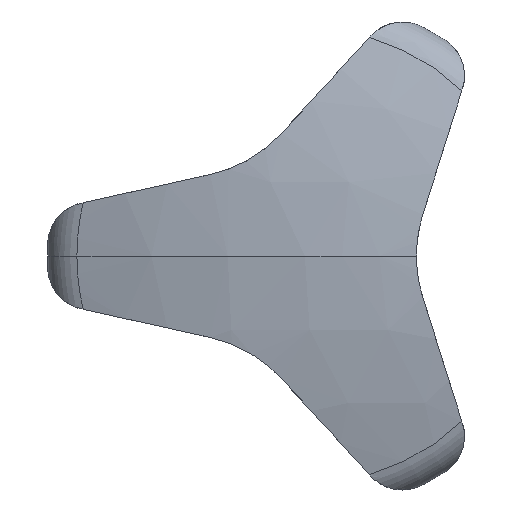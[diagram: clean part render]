
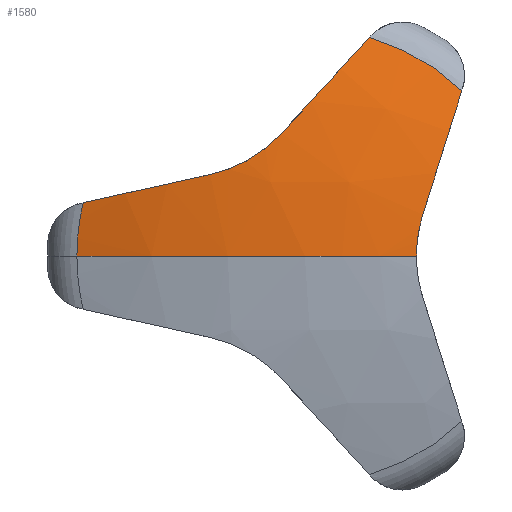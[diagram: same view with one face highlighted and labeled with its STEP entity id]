
A CAD part, left-side view. The second image highlights one B-rep face of the part: STEP entity #1580.
In plain terms, the highlighted spherical face has radius 85 mm.
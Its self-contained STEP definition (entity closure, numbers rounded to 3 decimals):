
#13 = DIRECTION ( 'NONE',  ( 0., 1., 0. ) ) ;
#19 = ORIENTED_EDGE ( 'NONE', *, *, #1154, .F. ) ;
#21 = VERTEX_POINT ( 'NONE', #441 ) ;
#26 = CARTESIAN_POINT ( 'NONE',  ( 50., -11.118, -3.506 ) ) ;
#43 = SPHERICAL_SURFACE ( 'NONE', #534, 85. ) ;
#66 = CARTESIAN_POINT ( 'NONE',  ( -33.973, 7.951, 10.511 ) ) ;
#69 = VERTEX_POINT ( 'NONE', #989 ) ;
#82 = CARTESIAN_POINT ( 'NONE',  ( -33.978, 5.113, 12.132 ) ) ;
#83 = AXIS2_PLACEMENT_3D ( 'NONE', #1164, #646, #13 ) ;
#88 = CARTESIAN_POINT ( 'NONE',  ( -33.744, 11.037, 9.494 ) ) ;
#117 = CARTESIAN_POINT ( 'NONE',  ( -33.829, -13.495, 4.031 ) ) ;
#141 = VERTEX_POINT ( 'NONE', #1240 ) ;
#161 = EDGE_CURVE ( 'NONE', #69, #497, #620, .T. ) ;
#179 = DIRECTION ( 'NONE',  ( 0., 0., 1. ) ) ;
#183 = CIRCLE ( 'NONE', #1031, 84.197 ) ;
#189 = AXIS2_PLACEMENT_3D ( 'NONE', #514, #386, #1507 ) ;
#194 = CARTESIAN_POINT ( 'NONE',  ( -33.893, 3.85, 13.147 ) ) ;
#206 = ORIENTED_EDGE ( 'NONE', *, *, #1366, .T. ) ;
#210 = AXIS2_PLACEMENT_3D ( 'NONE', #26, #299, #425 ) ;
#220 = CARTESIAN_POINT ( 'NONE',  ( -33.829, 10.238, 9.671 ) ) ;
#233 = DIRECTION ( 'NONE',  ( 0., -0.976, 0.216 ) ) ;
#237 = CIRCLE ( 'NONE', #189, 26.563 ) ;
#258 = CARTESIAN_POINT ( 'NONE',  ( -33.957, -13.125, 2.037 ) ) ;
#279 = CIRCLE ( 'NONE', #83, 26.563 ) ;
#287 = DIRECTION ( 'NONE',  ( 0., 0., 1. ) ) ;
#299 = DIRECTION ( 'NONE',  ( 0., 0.954, 0.301 ) ) ;
#305 = CARTESIAN_POINT ( 'NONE',  ( 50., 0., 0. ) ) ;
#306 = EDGE_CURVE ( 'NONE', #1170, #1013, #279, .T. ) ;
#333 = CARTESIAN_POINT ( 'NONE',  ( -33.829, 3.257, 13.702 ) ) ;
#338 = ORIENTED_EDGE ( 'NONE', *, *, #1549, .T. ) ;
#339 = CARTESIAN_POINT ( 'NONE',  ( -34., 5.784, 11.672 ) ) ;
#373 = DIRECTION ( 'NONE',  ( 0., -0.676, 0.737 ) ) ;
#386 = DIRECTION ( 'NONE',  ( 1., 0., 0. ) ) ;
#416 = EDGE_CURVE ( 'NONE', #497, #1592, #542, .T. ) ;
#425 = DIRECTION ( 'NONE',  ( 0., 0.301, -0.954 ) ) ;
#441 = CARTESIAN_POINT ( 'NONE',  ( -30.743, 26.562, 0. ) ) ;
#451 = CARTESIAN_POINT ( 'NONE',  ( -33.893, 9.46, 9.908 ) ) ;
#497 = VERTEX_POINT ( 'NONE', #88 ) ;
#510 = CARTESIAN_POINT ( 'NONE',  ( -34., -13., 0.41 ) ) ;
#514 = CARTESIAN_POINT ( 'NONE',  ( -30.743, 0., 0. ) ) ;
#534 = AXIS2_PLACEMENT_3D ( 'NONE', #305, #179, #1443 ) ;
#542 = CIRCLE ( 'NONE', #1458, 84.197 ) ;
#616 = ORIENTED_EDGE ( 'NONE', *, *, #1145, .T. ) ;
#620 = B_SPLINE_CURVE_WITH_KNOTS ( 'NONE', 3,
 ( #1601, #333, #194, #82, #339, #698, #1349, #66, #1081, #451, #220, #722 ),
 .UNSPECIFIED., .F., .F.,
 ( 4, 2, 2, 2, 2, 4 ),
 ( 0., 0.002, 0.005, 0.006, 0.007, 0.01 ),
 .UNSPECIFIED. ) ;
#623 = CARTESIAN_POINT ( 'NONE',  ( -33.744, -13.741, 4.811 ) ) ;
#641 = CARTESIAN_POINT ( 'NONE',  ( -33.893, -13.311, 3.24 ) ) ;
#646 = DIRECTION ( 'NONE',  ( 1., 0., 0. ) ) ;
#698 = CARTESIAN_POINT ( 'NONE',  ( -34., 6.85, 11.056 ) ) ;
#722 = CARTESIAN_POINT ( 'NONE',  ( -33.744, 11.037, 9.494 ) ) ;
#724 = ORIENTED_EDGE ( 'NONE', *, *, #1313, .F. ) ;
#732 = ORIENTED_EDGE ( 'NONE', *, *, #306, .F. ) ;
#733 = DIRECTION ( 'NONE',  ( -1., 0., 0. ) ) ;
#748 = CARTESIAN_POINT ( 'NONE',  ( 50., 8.595, 7.876 ) ) ;
#816 = CARTESIAN_POINT ( 'NONE',  ( -30.743, 25.825, 6.216 ) ) ;
#885 = CARTESIAN_POINT ( 'NONE',  ( -33.995, -13.016, 0.821 ) ) ;
#897 = VERTEX_POINT ( 'NONE', #1149 ) ;
#906 = CARTESIAN_POINT ( 'NONE',  ( -33.973, -13.078, 1.634 ) ) ;
#914 = DIRECTION ( 'NONE',  ( 0., -1., 0. ) ) ;
#929 = CARTESIAN_POINT ( 'NONE',  ( -30.743, -18.295, 19.257 ) ) ;
#946 = CIRCLE ( 'NONE', #1115, 85. ) ;
#948 = CIRCLE ( 'NONE', #1142, 85. ) ;
#969 = CARTESIAN_POINT ( 'NONE',  ( 50., 0., 0. ) ) ;
#989 = CARTESIAN_POINT ( 'NONE',  ( -33.744, 2.704, 14.305 ) ) ;
#1013 = VERTEX_POINT ( 'NONE', #929 ) ;
#1031 = AXIS2_PLACEMENT_3D ( 'NONE', #748, #1259, #373 ) ;
#1081 = CARTESIAN_POINT ( 'NONE',  ( -33.957, 8.324, 10.349 ) ) ;
#1104 = ORIENTED_EDGE ( 'NONE', *, *, #161, .T. ) ;
#1115 = AXIS2_PLACEMENT_3D ( 'NONE', #969, #1346, #733 ) ;
#1142 = AXIS2_PLACEMENT_3D ( 'NONE', #1168, #287, #914 ) ;
#1145 = EDGE_CURVE ( 'NONE', #1170, #69, #183, .T. ) ;
#1149 = CARTESIAN_POINT ( 'NONE',  ( -34., -13., 0. ) ) ;
#1153 = EDGE_LOOP ( 'NONE', ( #724, #1163, #206, #338, #732, #616, #1104, #1279, #19 ) ) ;
#1154 = EDGE_CURVE ( 'NONE', #21, #1592, #237, .T. ) ;
#1160 = CARTESIAN_POINT ( 'NONE',  ( -34., -13., 0. ) ) ;
#1163 = ORIENTED_EDGE ( 'NONE', *, *, #1595, .T. ) ;
#1164 = CARTESIAN_POINT ( 'NONE',  ( -30.743, 0., 0. ) ) ;
#1168 = CARTESIAN_POINT ( 'NONE',  ( 50., 0., 0. ) ) ;
#1170 = VERTEX_POINT ( 'NONE', #1367 ) ;
#1240 = CARTESIAN_POINT ( 'NONE',  ( -33.744, -13.741, 4.811 ) ) ;
#1259 = DIRECTION ( 'NONE',  ( 0., -0.737, -0.676 ) ) ;
#1279 = ORIENTED_EDGE ( 'NONE', *, *, #416, .T. ) ;
#1313 = EDGE_CURVE ( 'NONE', #1361, #21, #946, .T. ) ;
#1325 = CIRCLE ( 'NONE', #210, 84.197 ) ;
#1328 = B_SPLINE_CURVE_WITH_KNOTS ( 'NONE', 3,
 ( #1160, #510, #885, #906, #258, #641, #117, #623 ),
 .UNSPECIFIED., .F., .F.,
 ( 4, 2, 2, 4 ),
 ( 0.005, 0.006, 0.007, 0.01 ),
 .UNSPECIFIED. ) ;
#1346 = DIRECTION ( 'NONE',  ( 0., 0., -1. ) ) ;
#1349 = CARTESIAN_POINT ( 'NONE',  ( -33.995, 7.215, 10.864 ) ) ;
#1361 = VERTEX_POINT ( 'NONE', #1599 ) ;
#1365 = DIRECTION ( 'NONE',  ( 0., -0.216, -0.976 ) ) ;
#1366 = EDGE_CURVE ( 'NONE', #897, #141, #1328, .T. ) ;
#1367 = CARTESIAN_POINT ( 'NONE',  ( -30.743, -7.53, 25.473 ) ) ;
#1385 = CARTESIAN_POINT ( 'NONE',  ( 50., 2.523, 11.381 ) ) ;
#1443 = DIRECTION ( 'NONE',  ( 0., 1., 0. ) ) ;
#1458 = AXIS2_PLACEMENT_3D ( 'NONE', #1385, #1365, #233 ) ;
#1507 = DIRECTION ( 'NONE',  ( 0., 1., 0. ) ) ;
#1549 = EDGE_CURVE ( 'NONE', #141, #1013, #1325, .T. ) ;
#1551 = FACE_OUTER_BOUND ( 'NONE', #1153, .T. ) ;
#1580 = ADVANCED_FACE ( 'NONE', ( #1551 ), #43, .T. ) ;
#1592 = VERTEX_POINT ( 'NONE', #816 ) ;
#1595 = EDGE_CURVE ( 'NONE', #1361, #897, #948, .T. ) ;
#1599 = CARTESIAN_POINT ( 'NONE',  ( -35., 0., 0. ) ) ;
#1601 = CARTESIAN_POINT ( 'NONE',  ( -33.744, 2.704, 14.305 ) ) ;
